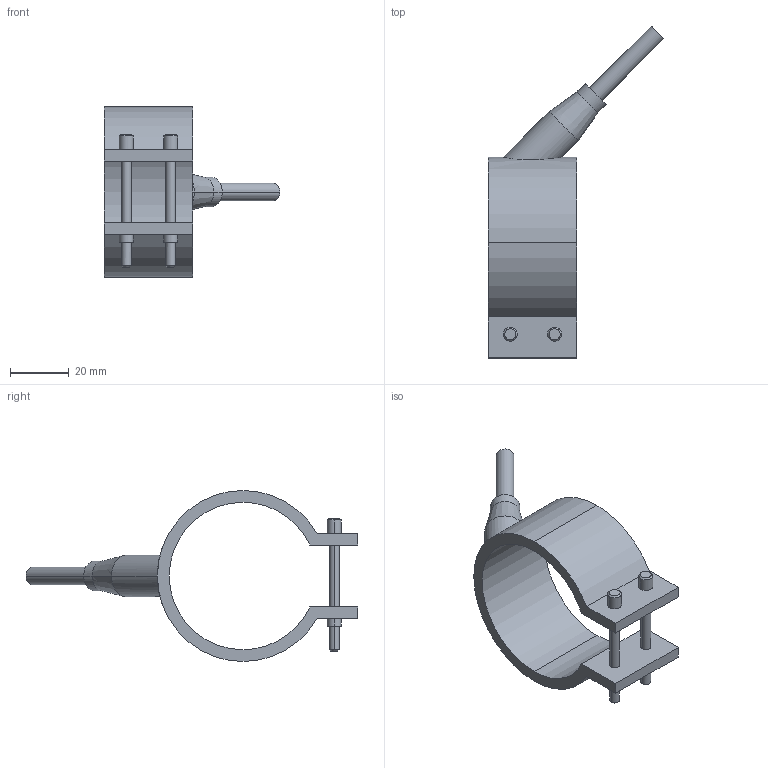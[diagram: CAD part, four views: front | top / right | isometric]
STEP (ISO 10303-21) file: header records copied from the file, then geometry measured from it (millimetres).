
FILE_DESCRIPTION(('CATIA V5 STEP Exchange'),'2;1');
FILE_NAME('C:\Users\Utente\Desktop\IO LAVORO\3D X SITO CF\X SITO\PLASTICA\RF1\29050030.stp','2021-03-27T09:31:39+00:00',('none'),('none'),'CATIA Version 5 Release 20 GA (IN-10)','CATIA V5 STEP AP203','none');
FILE_SCHEMA(('CONFIG_CONTROL_DESIGN'));
Length unit declared in the file: millimetre
Products named in the file (1): 29050030
Bounding box: 59.55 x 112.55 x 58 mm (x, y, z)
Volume: 26435.7 mm3; surface area: 14515.5 mm2
Topology: 1 solids, 1 shells, 54 faces, 124 edges, 80 vertices
Faces by surface type: cylinder 28, plane 16, cone 10
Entity records: 1714 total; most frequent: CARTESIAN_POINT 473, ORIENTED_EDGE 248, DIRECTION 215, EDGE_CURVE 124, AXIS2_PLACEMENT_3D 108, VERTEX_POINT 80, EDGE_LOOP 66, VECTOR 56
